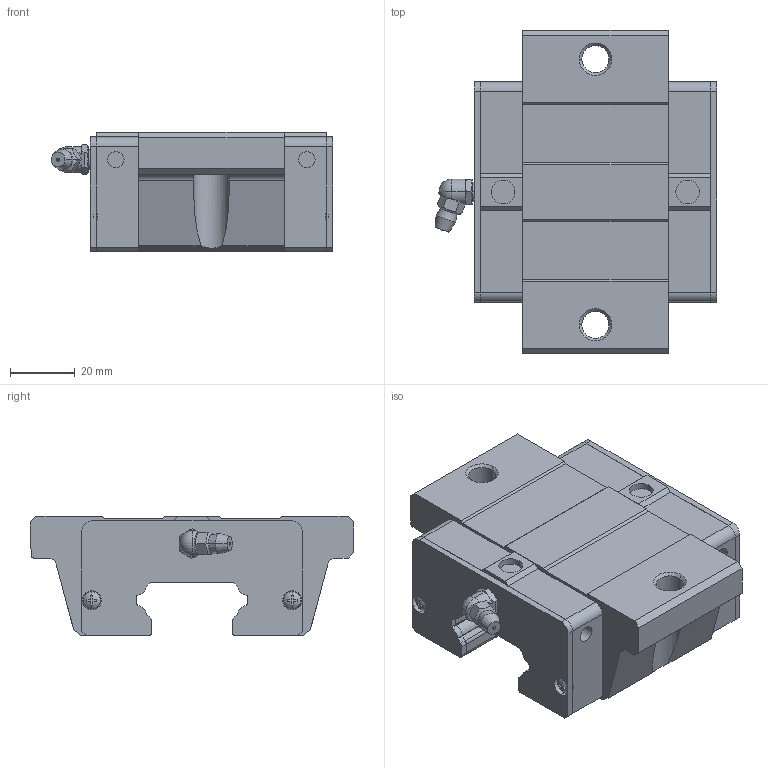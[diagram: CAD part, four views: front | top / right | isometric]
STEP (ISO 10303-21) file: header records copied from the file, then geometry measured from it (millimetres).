
FILE_DESCRIPTION(('starvars output'),'2;1');
FILE_NAME('cv20190610054652000016078.stp','05:46:52 2019/06/10',( 'Thomas Industrial Network Germany GmbH'),( 'Thomas Industrial Network Germany GmbH'),'unknown preprocess','ACIS' ,'unknown authorization');
FILE_SCHEMA(('CONFIG_CONTROL_DESIGN {UNKNOWN IMPLEMENTATION LEVEL}'));
Length unit declared in the file: millimetre
Products named in the file (10): PRODUCT_ID_1; PRODUCT_ID_2; PRODUCT_ID_3; PRODUCT_ID_4; PRODUCT_ID_5; PRODUCT_ID_6; PRODUCT_ID_7; PRODUCT_ID_8; PRODUCT_ID_9; PRODUCT_ID_10
Bounding box: 87 x 100 x 37 mm (x, y, z)
Volume: 176232.8 mm3; surface area: 43843.8 mm2
Topology: 10 solids, 10 shells, 433 faces, 1154 edges, 750 vertices
Faces by surface type: plane 237, cylinder 136, cone 48, sphere 12
Entity records: 13234 total; most frequent: ORIENTED_EDGE 2300, CARTESIAN_POINT 2184, DIRECTION 1951, EDGE_CURVE 1150, VERTEX_POINT 750, VECTOR 665, LINE 665, AXIS2_PLACEMENT_3D 643
